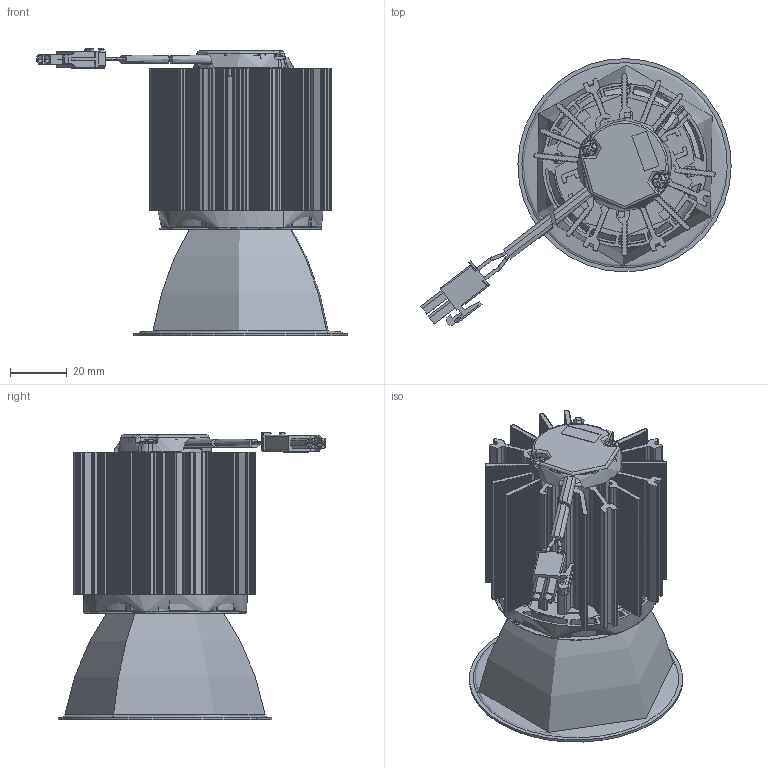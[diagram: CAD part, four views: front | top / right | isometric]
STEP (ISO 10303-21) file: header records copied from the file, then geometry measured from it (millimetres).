
FILE_DESCRIPTION(('Creo Elements/Direct Modeling STEP Export'),'2;1');
FILE_NAME('EVO75.stp','2018-07-23T 7:50:17',(''),(''),'Creo Elements/Direct Modeling STEP processor for AP214 (Solid Model)','Creo Elements/Direct Modeling 20.0B 07-Aug-2017 (C) Parametric Technology GmbH','');
FILE_SCHEMA(('AUTOMOTIVE_DESIGN { 1 0 10303 214 1 1 1 1 }'));
Length unit declared in the file: millimetre
Products named in the file (12): HOLDER_19X19; LED; puntale_a; cop_maschio; puntale_b; cavo; cavo.1; connettore; diffusore_sferico; dissipatore_D64; riflettore_alluminio_D75; EVO75_ENGINE
Assembly tree (11 placements, depth 3):
  EVO75_ENGINE
    riflettore_alluminio_D75
    dissipatore_D64
    diffusore_sferico
    connettore
      cavo.1
      cavo
      puntale_b
      cop_maschio
      puntale_a
    LED
    HOLDER_19X19
Bounding box: 109.14 x 93.97 x 100.99 mm (x, y, z)
Topology: 14 solids, 16 shells, 4657 faces, 13110 edges, 8515 vertices
Faces by surface type: plane 3015, cylinder 680, bspline 539, cone 214, torus 154, sphere 55
Full cylindrical faces by diameter (mm): 1.1 x1
Entity records: 205365 total; most frequent: CARTESIAN_POINT 89950, ORIENTED_EDGE 26166, DIRECTION 20233, EDGE_CURVE 13066, VECTOR 8793, LINE 8793, VERTEX_POINT 8512, AXIS2_PLACEMENT_3D 5720
